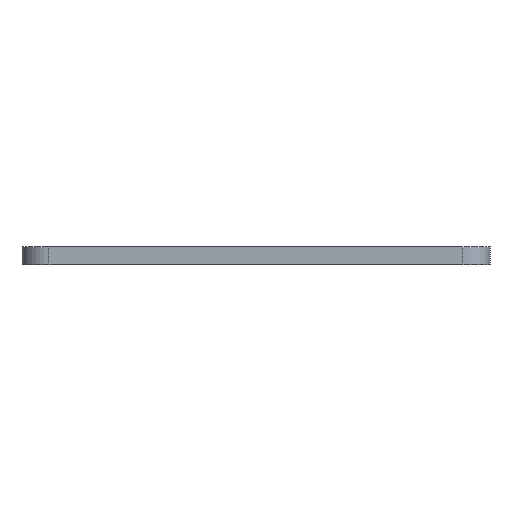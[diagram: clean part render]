
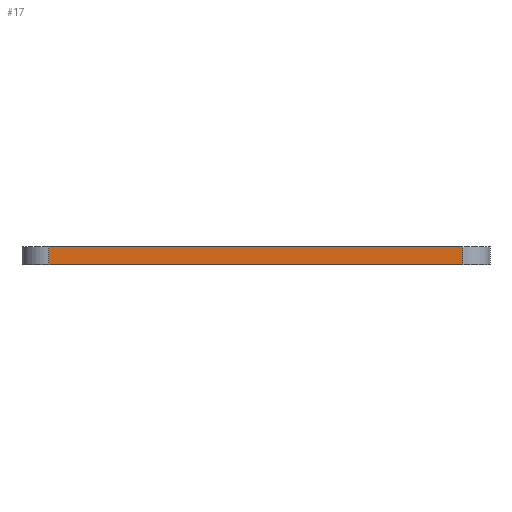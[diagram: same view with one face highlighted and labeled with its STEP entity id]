
A CAD part, left-side view. The second image highlights one B-rep face of the part: STEP entity #17.
In plain terms, the highlighted planar face has unit normal (-1, 0, 0).
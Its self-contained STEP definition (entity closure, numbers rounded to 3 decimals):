
#17 = ADVANCED_FACE('',(#18),#32,.F.);
#18 = FACE_BOUND('',#19,.F.);
#19 = EDGE_LOOP('',(#20,#55,#83,#111));
#20 = ORIENTED_EDGE('',*,*,#21,.F.);
#21 = EDGE_CURVE('',#22,#24,#26,.T.);
#22 = VERTEX_POINT('',#23);
#23 = CARTESIAN_POINT('',(-39.,-23.,2.));
#24 = VERTEX_POINT('',#25);
#25 = CARTESIAN_POINT('',(-39.,23.,2.));
#26 = SURFACE_CURVE('',#27,(#31,#43),.PCURVE_S1.);
#27 = LINE('',#28,#29);
#28 = CARTESIAN_POINT('',(-39.,-26.,2.));
#29 = VECTOR('',#30,1.);
#30 = DIRECTION('',(0.,1.,0.));
#31 = PCURVE('',#32,#37);
#32 = PLANE('',#33);
#33 = AXIS2_PLACEMENT_3D('',#34,#35,#36);
#34 = CARTESIAN_POINT('',(-39.,-26.,0.));
#35 = DIRECTION('',(1.,0.,0.));
#36 = DIRECTION('',(0.,0.,1.));
#37 = DEFINITIONAL_REPRESENTATION('',(#38),#42);
#38 = LINE('',#39,#40);
#39 = CARTESIAN_POINT('',(2.,0.));
#40 = VECTOR('',#41,1.);
#41 = DIRECTION('',(0.,-1.));
#42 = ( GEOMETRIC_REPRESENTATION_CONTEXT(2) 
PARAMETRIC_REPRESENTATION_CONTEXT() REPRESENTATION_CONTEXT('2D SPACE',''
  ) );
#43 = PCURVE('',#44,#49);
#44 = PLANE('',#45);
#45 = AXIS2_PLACEMENT_3D('',#46,#47,#48);
#46 = CARTESIAN_POINT('',(-39.,-26.,2.));
#47 = DIRECTION('',(0.,0.,1.));
#48 = DIRECTION('',(1.,0.,0.));
#49 = DEFINITIONAL_REPRESENTATION('',(#50),#54);
#50 = LINE('',#51,#52);
#51 = CARTESIAN_POINT('',(0.,0.));
#52 = VECTOR('',#53,1.);
#53 = DIRECTION('',(0.,1.));
#54 = ( GEOMETRIC_REPRESENTATION_CONTEXT(2) 
PARAMETRIC_REPRESENTATION_CONTEXT() REPRESENTATION_CONTEXT('2D SPACE',''
  ) );
#55 = ORIENTED_EDGE('',*,*,#56,.F.);
#56 = EDGE_CURVE('',#57,#22,#59,.T.);
#57 = VERTEX_POINT('',#58);
#58 = CARTESIAN_POINT('',(-39.,-23.,0.));
#59 = SURFACE_CURVE('',#60,(#64,#71),.PCURVE_S1.);
#60 = LINE('',#61,#62);
#61 = CARTESIAN_POINT('',(-39.,-23.,0.));
#62 = VECTOR('',#63,1.);
#63 = DIRECTION('',(0.,0.,1.));
#64 = PCURVE('',#32,#65);
#65 = DEFINITIONAL_REPRESENTATION('',(#66),#70);
#66 = LINE('',#67,#68);
#67 = CARTESIAN_POINT('',(0.,-3.));
#68 = VECTOR('',#69,1.);
#69 = DIRECTION('',(1.,0.));
#70 = ( GEOMETRIC_REPRESENTATION_CONTEXT(2) 
PARAMETRIC_REPRESENTATION_CONTEXT() REPRESENTATION_CONTEXT('2D SPACE',''
  ) );
#71 = PCURVE('',#72,#77);
#72 = CYLINDRICAL_SURFACE('',#73,3.);
#73 = AXIS2_PLACEMENT_3D('',#74,#75,#76);
#74 = CARTESIAN_POINT('',(-36.,-23.,0.));
#75 = DIRECTION('',(0.,0.,1.));
#76 = DIRECTION('',(-1.,-0.,0.));
#77 = DEFINITIONAL_REPRESENTATION('',(#78),#82);
#78 = LINE('',#79,#80);
#79 = CARTESIAN_POINT('',(0.,0.));
#80 = VECTOR('',#81,1.);
#81 = DIRECTION('',(0.,1.));
#82 = ( GEOMETRIC_REPRESENTATION_CONTEXT(2) 
PARAMETRIC_REPRESENTATION_CONTEXT() REPRESENTATION_CONTEXT('2D SPACE',''
  ) );
#83 = ORIENTED_EDGE('',*,*,#84,.T.);
#84 = EDGE_CURVE('',#57,#85,#87,.T.);
#85 = VERTEX_POINT('',#86);
#86 = CARTESIAN_POINT('',(-39.,23.,0.));
#87 = SURFACE_CURVE('',#88,(#92,#99),.PCURVE_S1.);
#88 = LINE('',#89,#90);
#89 = CARTESIAN_POINT('',(-39.,-26.,0.));
#90 = VECTOR('',#91,1.);
#91 = DIRECTION('',(0.,1.,0.));
#92 = PCURVE('',#32,#93);
#93 = DEFINITIONAL_REPRESENTATION('',(#94),#98);
#94 = LINE('',#95,#96);
#95 = CARTESIAN_POINT('',(0.,0.));
#96 = VECTOR('',#97,1.);
#97 = DIRECTION('',(0.,-1.));
#98 = ( GEOMETRIC_REPRESENTATION_CONTEXT(2) 
PARAMETRIC_REPRESENTATION_CONTEXT() REPRESENTATION_CONTEXT('2D SPACE',''
  ) );
#99 = PCURVE('',#100,#105);
#100 = PLANE('',#101);
#101 = AXIS2_PLACEMENT_3D('',#102,#103,#104);
#102 = CARTESIAN_POINT('',(-39.,-26.,0.));
#103 = DIRECTION('',(0.,0.,1.));
#104 = DIRECTION('',(1.,0.,0.));
#105 = DEFINITIONAL_REPRESENTATION('',(#106),#110);
#106 = LINE('',#107,#108);
#107 = CARTESIAN_POINT('',(0.,0.));
#108 = VECTOR('',#109,1.);
#109 = DIRECTION('',(0.,1.));
#110 = ( GEOMETRIC_REPRESENTATION_CONTEXT(2) 
PARAMETRIC_REPRESENTATION_CONTEXT() REPRESENTATION_CONTEXT('2D SPACE',''
  ) );
#111 = ORIENTED_EDGE('',*,*,#112,.T.);
#112 = EDGE_CURVE('',#85,#24,#113,.T.);
#113 = SURFACE_CURVE('',#114,(#118,#125),.PCURVE_S1.);
#114 = LINE('',#115,#116);
#115 = CARTESIAN_POINT('',(-39.,23.,0.));
#116 = VECTOR('',#117,1.);
#117 = DIRECTION('',(0.,0.,1.));
#118 = PCURVE('',#32,#119);
#119 = DEFINITIONAL_REPRESENTATION('',(#120),#124);
#120 = LINE('',#121,#122);
#121 = CARTESIAN_POINT('',(0.,-49.));
#122 = VECTOR('',#123,1.);
#123 = DIRECTION('',(1.,0.));
#124 = ( GEOMETRIC_REPRESENTATION_CONTEXT(2) 
PARAMETRIC_REPRESENTATION_CONTEXT() REPRESENTATION_CONTEXT('2D SPACE',''
  ) );
#125 = PCURVE('',#126,#131);
#126 = CYLINDRICAL_SURFACE('',#127,3.);
#127 = AXIS2_PLACEMENT_3D('',#128,#129,#130);
#128 = CARTESIAN_POINT('',(-36.,23.,0.));
#129 = DIRECTION('',(0.,0.,1.));
#130 = DIRECTION('',(-1.,-0.,0.));
#131 = DEFINITIONAL_REPRESENTATION('',(#132),#136);
#132 = LINE('',#133,#134);
#133 = CARTESIAN_POINT('',(-0.,0.));
#134 = VECTOR('',#135,1.);
#135 = DIRECTION('',(-0.,1.));
#136 = ( GEOMETRIC_REPRESENTATION_CONTEXT(2) 
PARAMETRIC_REPRESENTATION_CONTEXT() REPRESENTATION_CONTEXT('2D SPACE',''
  ) );
